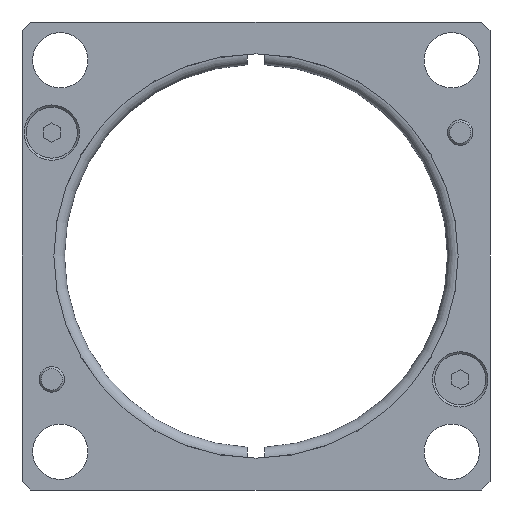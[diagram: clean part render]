
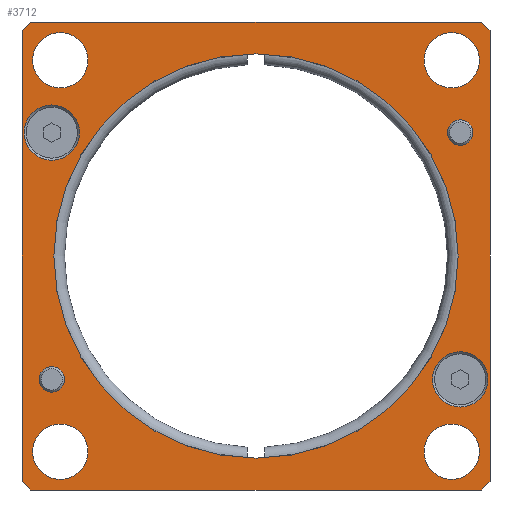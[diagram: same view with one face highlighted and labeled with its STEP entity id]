
A CAD part, front view. The second image highlights one B-rep face of the part: STEP entity #3712.
In plain terms, the highlighted planar face has unit normal (0, -1, 0) as drawn and (0, 0, -1) by its records, which use the part's own axes.
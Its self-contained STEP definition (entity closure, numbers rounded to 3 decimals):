
#153=FACE_BOUND('',#459,.T.);
#154=FACE_BOUND('',#460,.T.);
#155=FACE_BOUND('',#461,.T.);
#156=FACE_BOUND('',#462,.T.);
#157=FACE_BOUND('',#463,.T.);
#158=FACE_BOUND('',#464,.T.);
#159=FACE_BOUND('',#465,.T.);
#160=FACE_BOUND('',#466,.T.);
#161=FACE_BOUND('',#467,.T.);
#188=CIRCLE('',#3996,47.5);
#196=CIRCLE('',#4006,6.5);
#198=CIRCLE('',#4009,6.5);
#199=CIRCLE('',#4010,3.);
#200=CIRCLE('',#4011,3.);
#201=CIRCLE('',#4012,6.5);
#202=CIRCLE('',#4013,6.5);
#203=CIRCLE('',#4014,6.5);
#204=CIRCLE('',#4015,6.5);
#246=FACE_OUTER_BOUND('',#458,.T.);
#458=EDGE_LOOP('',(#2516,#2517,#2518,#2519,#2520,#2521,#2522,#2523));
#459=EDGE_LOOP('',(#2524));
#460=EDGE_LOOP('',(#2525));
#461=EDGE_LOOP('',(#2526));
#462=EDGE_LOOP('',(#2527));
#463=EDGE_LOOP('',(#2528));
#464=EDGE_LOOP('',(#2529));
#465=EDGE_LOOP('',(#2530));
#466=EDGE_LOOP('',(#2531));
#467=EDGE_LOOP('',(#2532));
#704=LINE('',#4911,#1028);
#705=LINE('',#4913,#1029);
#706=LINE('',#4915,#1030);
#707=LINE('',#4917,#1031);
#708=LINE('',#4919,#1032);
#709=LINE('',#4921,#1033);
#710=LINE('',#4923,#1034);
#711=LINE('',#4924,#1035);
#1028=VECTOR('',#4197,10.);
#1029=VECTOR('',#4198,10.);
#1030=VECTOR('',#4199,10.);
#1031=VECTOR('',#4200,10.);
#1032=VECTOR('',#4201,10.);
#1033=VECTOR('',#4202,10.);
#1034=VECTOR('',#4203,10.);
#1035=VECTOR('',#4204,10.);
#1553=VERTEX_POINT('',#4887);
#1557=VERTEX_POINT('',#4903);
#1559=VERTEX_POINT('',#4909);
#1560=VERTEX_POINT('',#4910);
#1561=VERTEX_POINT('',#4912);
#1562=VERTEX_POINT('',#4914);
#1563=VERTEX_POINT('',#4916);
#1564=VERTEX_POINT('',#4918);
#1565=VERTEX_POINT('',#4920);
#1566=VERTEX_POINT('',#4922);
#1567=VERTEX_POINT('',#4925);
#1568=VERTEX_POINT('',#4927);
#1569=VERTEX_POINT('',#4929);
#1570=VERTEX_POINT('',#4931);
#1571=VERTEX_POINT('',#4933);
#1572=VERTEX_POINT('',#4935);
#1573=VERTEX_POINT('',#4937);
#1928=EDGE_CURVE('',#1553,#1553,#188,.T.);
#1938=EDGE_CURVE('',#1557,#1557,#196,.T.);
#1941=EDGE_CURVE('',#1559,#1560,#704,.T.);
#1942=EDGE_CURVE('',#1559,#1561,#705,.T.);
#1943=EDGE_CURVE('',#1562,#1561,#706,.T.);
#1944=EDGE_CURVE('',#1562,#1563,#707,.T.);
#1945=EDGE_CURVE('',#1564,#1563,#708,.T.);
#1946=EDGE_CURVE('',#1564,#1565,#709,.T.);
#1947=EDGE_CURVE('',#1566,#1565,#710,.T.);
#1948=EDGE_CURVE('',#1566,#1560,#711,.T.);
#1949=EDGE_CURVE('',#1567,#1567,#198,.T.);
#1950=EDGE_CURVE('',#1568,#1568,#199,.T.);
#1951=EDGE_CURVE('',#1569,#1569,#200,.T.);
#1952=EDGE_CURVE('',#1570,#1570,#201,.T.);
#1953=EDGE_CURVE('',#1571,#1571,#202,.T.);
#1954=EDGE_CURVE('',#1572,#1572,#203,.T.);
#1955=EDGE_CURVE('',#1573,#1573,#204,.T.);
#2516=ORIENTED_EDGE('',*,*,#1941,.F.);
#2517=ORIENTED_EDGE('',*,*,#1942,.T.);
#2518=ORIENTED_EDGE('',*,*,#1943,.F.);
#2519=ORIENTED_EDGE('',*,*,#1944,.T.);
#2520=ORIENTED_EDGE('',*,*,#1945,.F.);
#2521=ORIENTED_EDGE('',*,*,#1946,.T.);
#2522=ORIENTED_EDGE('',*,*,#1947,.F.);
#2523=ORIENTED_EDGE('',*,*,#1948,.T.);
#2524=ORIENTED_EDGE('',*,*,#1949,.F.);
#2525=ORIENTED_EDGE('',*,*,#1950,.T.);
#2526=ORIENTED_EDGE('',*,*,#1951,.T.);
#2527=ORIENTED_EDGE('',*,*,#1928,.T.);
#2528=ORIENTED_EDGE('',*,*,#1952,.T.);
#2529=ORIENTED_EDGE('',*,*,#1953,.T.);
#2530=ORIENTED_EDGE('',*,*,#1954,.T.);
#2531=ORIENTED_EDGE('',*,*,#1955,.T.);
#2532=ORIENTED_EDGE('',*,*,#1938,.F.);
#3616=PLANE('',#4008);
#3712=ADVANCED_FACE('',(#246,#153,#154,#155,#156,#157,#158,#159,#160,#161),
#3616,.F.);
#3996=AXIS2_PLACEMENT_3D('',#4888,#4168,#4169);
#4006=AXIS2_PLACEMENT_3D('',#4904,#4190,#4191);
#4008=AXIS2_PLACEMENT_3D('',#4908,#4195,#4196);
#4009=AXIS2_PLACEMENT_3D('',#4926,#4205,#4206);
#4010=AXIS2_PLACEMENT_3D('',#4928,#4207,#4208);
#4011=AXIS2_PLACEMENT_3D('',#4930,#4209,#4210);
#4012=AXIS2_PLACEMENT_3D('',#4932,#4211,#4212);
#4013=AXIS2_PLACEMENT_3D('',#4934,#4213,#4214);
#4014=AXIS2_PLACEMENT_3D('',#4936,#4215,#4216);
#4015=AXIS2_PLACEMENT_3D('',#4938,#4217,#4218);
#4168=DIRECTION('center_axis',(0.,0.,1.));
#4169=DIRECTION('ref_axis',(-1.,0.,0.));
#4190=DIRECTION('center_axis',(0.,0.,-1.));
#4191=DIRECTION('ref_axis',(1.,0.,0.));
#4195=DIRECTION('center_axis',(0.,0.,1.));
#4196=DIRECTION('ref_axis',(1.,0.,0.));
#4197=DIRECTION('',(-0.707,-0.707,0.));
#4198=DIRECTION('',(1.,0.,0.));
#4199=DIRECTION('',(-0.707,0.707,0.));
#4200=DIRECTION('',(0.,-1.,0.));
#4201=DIRECTION('',(0.707,0.707,0.));
#4202=DIRECTION('',(-1.,0.,0.));
#4203=DIRECTION('',(0.707,-0.707,0.));
#4204=DIRECTION('',(0.,1.,0.));
#4205=DIRECTION('center_axis',(0.,0.,-1.));
#4206=DIRECTION('ref_axis',(1.,0.,0.));
#4207=DIRECTION('center_axis',(0.,0.,1.));
#4208=DIRECTION('ref_axis',(1.,0.,0.));
#4209=DIRECTION('center_axis',(0.,0.,1.));
#4210=DIRECTION('ref_axis',(1.,0.,0.));
#4211=DIRECTION('center_axis',(0.,0.,1.));
#4212=DIRECTION('ref_axis',(-1.,0.,0.));
#4213=DIRECTION('center_axis',(0.,0.,1.));
#4214=DIRECTION('ref_axis',(-1.,0.,0.));
#4215=DIRECTION('center_axis',(0.,0.,1.));
#4216=DIRECTION('ref_axis',(-1.,0.,0.));
#4217=DIRECTION('center_axis',(0.,0.,1.));
#4218=DIRECTION('ref_axis',(-1.,0.,0.));
#4887=CARTESIAN_POINT('',(47.5,0.,0.));
#4888=CARTESIAN_POINT('Origin',(0.,0.,0.));
#4903=CARTESIAN_POINT('',(41.5,29.,0.));
#4904=CARTESIAN_POINT('Origin',(48.,29.,0.));
#4908=CARTESIAN_POINT('Origin',(0.,0.,
0.));
#4909=CARTESIAN_POINT('',(-53.,55.,0.));
#4910=CARTESIAN_POINT('',(-55.,53.,0.));
#4911=CARTESIAN_POINT('',(-54.,54.,0.));
#4912=CARTESIAN_POINT('',(53.,55.,0.));
#4913=CARTESIAN_POINT('',(-55.,55.,0.));
#4914=CARTESIAN_POINT('',(55.,53.,0.));
#4915=CARTESIAN_POINT('',(54.,54.,0.));
#4916=CARTESIAN_POINT('',(55.,-53.,0.));
#4917=CARTESIAN_POINT('',(55.,55.,0.));
#4918=CARTESIAN_POINT('',(53.,-55.,0.));
#4919=CARTESIAN_POINT('',(54.,-54.,0.));
#4920=CARTESIAN_POINT('',(-53.,-55.,0.));
#4921=CARTESIAN_POINT('',(55.,-55.,0.));
#4922=CARTESIAN_POINT('',(-55.,-53.,0.));
#4923=CARTESIAN_POINT('',(-54.,-54.,0.));
#4924=CARTESIAN_POINT('',(-55.,-55.,0.));
#4925=CARTESIAN_POINT('',(-54.5,-29.,0.));
#4926=CARTESIAN_POINT('Origin',(-48.,-29.,0.));
#4927=CARTESIAN_POINT('',(-51.,29.,0.));
#4928=CARTESIAN_POINT('Origin',(-48.,29.,0.));
#4929=CARTESIAN_POINT('',(45.,-29.,0.));
#4930=CARTESIAN_POINT('Origin',(48.,-29.,0.));
#4931=CARTESIAN_POINT('',(-39.5,-46.,0.));
#4932=CARTESIAN_POINT('Origin',(-46.,-46.,0.));
#4933=CARTESIAN_POINT('',(52.5,-46.,0.));
#4934=CARTESIAN_POINT('Origin',(46.,-46.,0.));
#4935=CARTESIAN_POINT('',(52.5,46.,0.));
#4936=CARTESIAN_POINT('Origin',(46.,46.,0.));
#4937=CARTESIAN_POINT('',(-39.5,46.,0.));
#4938=CARTESIAN_POINT('Origin',(-46.,46.,0.));
